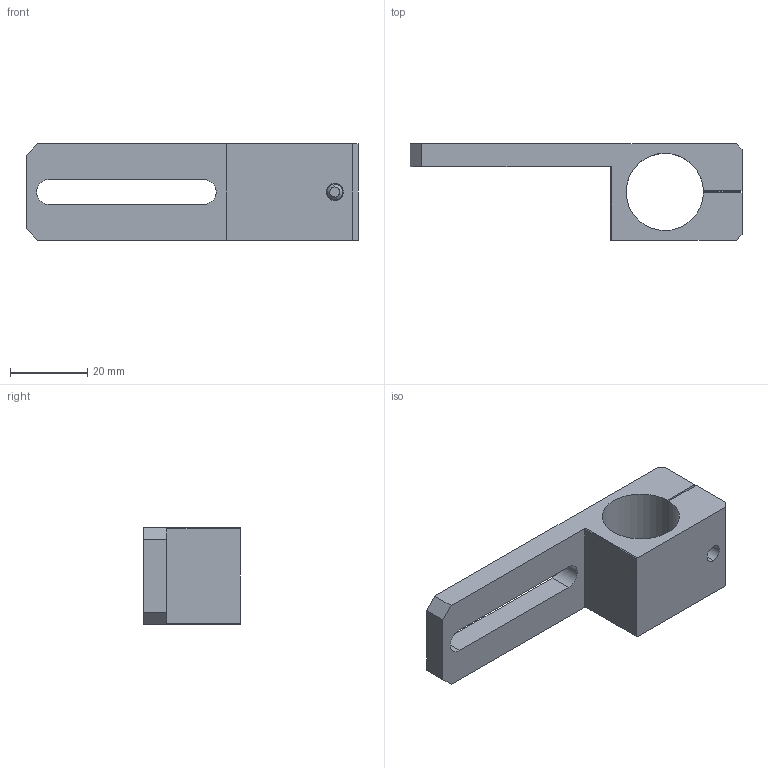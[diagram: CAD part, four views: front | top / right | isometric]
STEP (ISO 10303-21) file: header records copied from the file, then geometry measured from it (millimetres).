
FILE_DESCRIPTION (( 'STEP AP214' ), '1' );
FILE_NAME ('SCF5-2040W25T.STEP', '2023-01-17T08:50:51', ( 'Windows User' ), ( 'P R C' ), 'SwSTEP 2.0', 'SolidWorks 2019', '' );
FILE_SCHEMA (( 'AUTOMOTIVE_DESIGN' ));
Length unit declared in the file: millimetre
Products named in the file (1): SCF5-2040W25T
Bounding box: 86 x 25 x 25 mm (x, y, z)
Volume: 19022.1 mm3; surface area: 10027.3 mm2
Topology: 3 solids, 3 shells, 243 faces, 696 edges, 460 vertices
Faces by surface type: plane 222, cylinder 17, cone 2, bspline 2
Entity records: 10820 total; most frequent: CARTESIAN_POINT 1524, DIRECTION 1396, ORIENTED_EDGE 1392, EDGE_CURVE 696, VECTOR 472, LINE 472, AXIS2_PLACEMENT_3D 462, VERTEX_POINT 460
